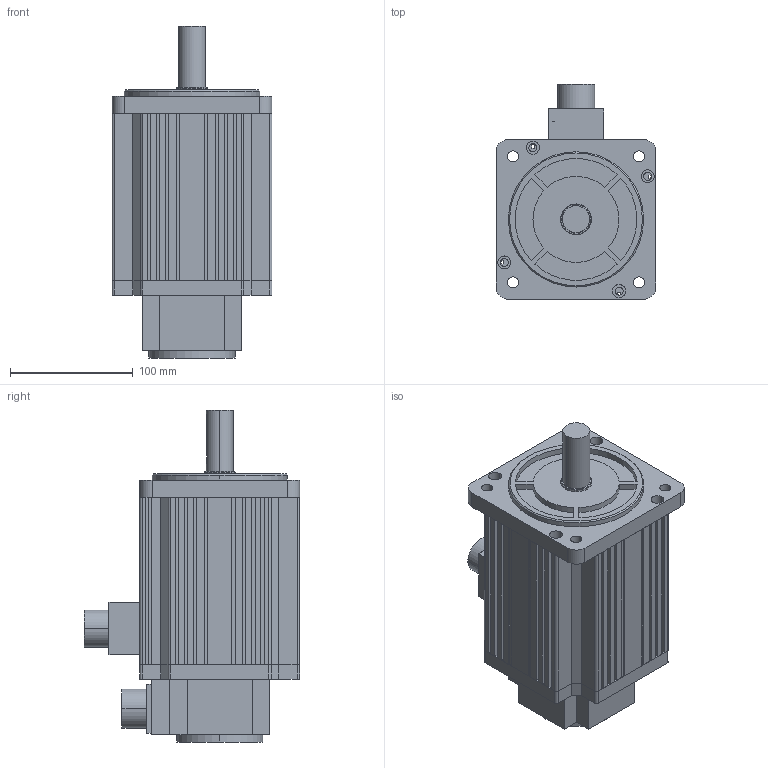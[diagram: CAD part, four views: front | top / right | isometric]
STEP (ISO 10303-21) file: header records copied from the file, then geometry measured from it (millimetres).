
FILE_DESCRIPTION (( 'STEP AP203' ), '1' );
FILE_NAME ('130-10015.STEP', '2020-05-30T08:39:21', ( '' ), ( '' ), 'SwSTEP 2.0', 'SolidWorks 2016', '' );
FILE_SCHEMA (( 'CONFIG_CONTROL_DESIGN' ));
Length unit declared in the file: millimetre
Products named in the file (8): 130-10N-1500隅赽; 130侜督ヶ裔; 130粣; 130侜督綴裔; 130晤鎢んㄗ51ㄘ; 130瑤脣2; 130瑤脣; 130-10015
Assembly tree (7 placements, depth 2):
  130-10015
    130-10N-1500隅赽
    130侜督ヶ裔
    130侜督綴裔
    130晤鎢んㄗ51ㄘ
    130粣
    130瑤脣2
    130瑤脣
Bounding box: 130 x 175 x 270 mm (x, y, z)
Volume: 1149849.8 mm3; surface area: 328150 mm2
Topology: 8 solids, 8 shells, 523 faces, 1317 edges, 862 vertices
Faces by surface type: plane 332, cylinder 175, cone 10, bspline 6
Entity records: 16612 total; most frequent: CARTESIAN_POINT 2852, DIRECTION 2733, ORIENTED_EDGE 2618, EDGE_CURVE 1309, AXIS2_PLACEMENT_3D 911, VECTOR 911, LINE 911, VERTEX_POINT 862
